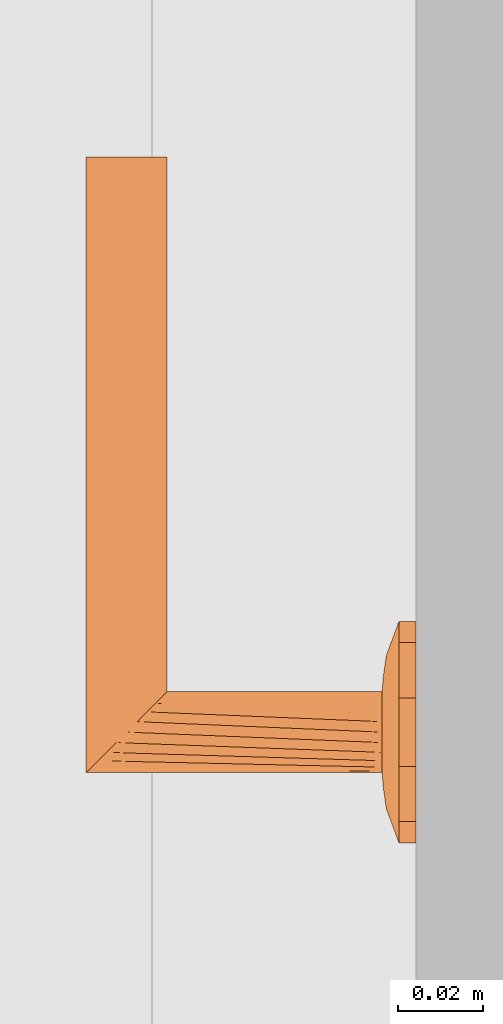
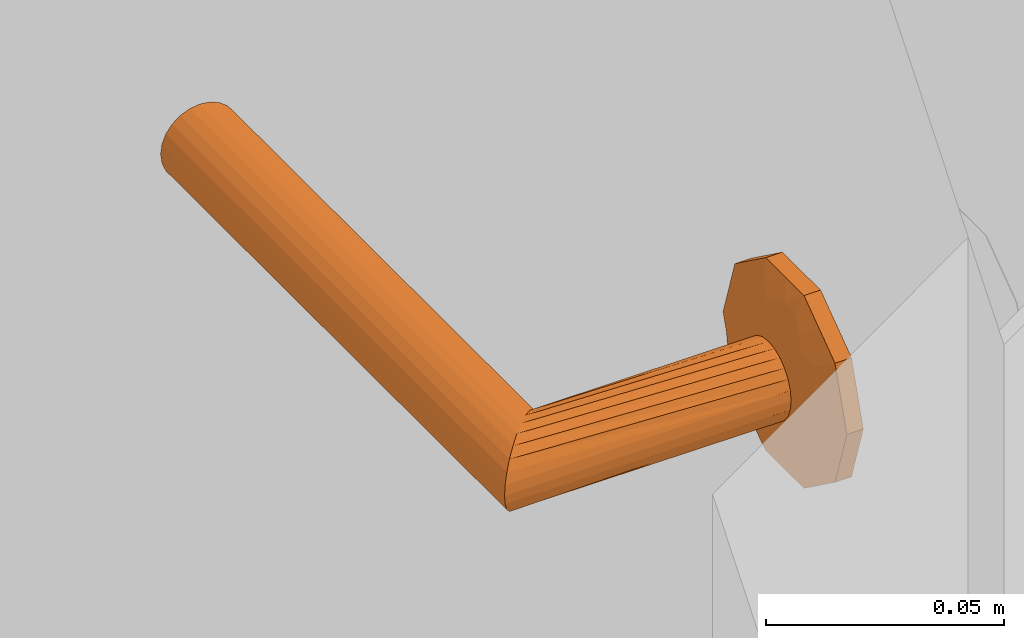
# One storey, part 116 of 125: 1 proxy.
"""IFC2X3 building model written with IfcOpenShell, lengths in millimetres."""

from ifc_helpers import new_model, entity, si_unit, converted_unit, direction, frame, origin, place, context, subcontext, project, spatial, faceted_brep, source, transform, mapped, material, type_object, type_shapes, element, save


model = new_model("IFC2X3")

# Units and contexts
model_context = context("Model", 3, precision=0.01, world=origin(), true_north=direction((6.123233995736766e-17, 1.0)))
plan_context = context("Plan", 3, precision=0.01, world=origin(), true_north=direction((6.123233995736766e-17, 1.0)))
body_context = subcontext(model_context, "Body", "Model", "MODEL_VIEW")
ifc_project = project(units=[si_unit("LENGTHUNIT", "METRE", prefix="MILLI"), converted_unit("PLANEANGLEUNIT", "DEGREE", entity("IfcPlaneAngleMeasure", 0.017453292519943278), si_unit("PLANEANGLEUNIT", "RADIAN"), dimensions=[0, 0, 0, 0, 0, 0, 0]), si_unit("AREAUNIT", "SQUARE_METRE")], contexts=[model_context, plan_context])

# Site, building, storey
site_placement = place(None, origin())
site = spatial("IfcSite", under=ifc_project, at=site_placement, Name="Default", CompositionType="ELEMENT")
building_placement = place(site_placement, origin())
building = spatial("IfcBuilding", under=site, at=building_placement, CompositionType="ELEMENT")
storey_placement = place(building_placement, frame((0.0, 0.0, 3125.0)))
storey = spatial("IfcBuildingStorey", under=building, at=storey_placement, Name="2K", CompositionType="ELEMENT", Elevation=3125.0)

# Proxy
ifc_material = material(Name="<Unnamed>")
building_element_proxy_type = type_object("IfcBuildingElementProxyType", Name="Door-handle_Lever_ABLOY_INOXI_3-19ss-002_RT:Default", PredefinedType="NOTDEFINED", material=ifc_material)
shared_shape = source(origin(), body_context, "Body", "Brep", [
    faceted_brep([(0.0, 0.0, 0.0), (21.034441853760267, -15.282416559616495, 0.0), (14.534441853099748, -20.00494299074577, 0.0), (8.034441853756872, -24.72746942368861, 0.0), (0.0, -24.72746942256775, 0.0), (23.51722092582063, -7.6412082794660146, 0.0), (26.0, 0.0, 0.0), (-8.034441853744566, -24.727469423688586, 0.0), (-14.534441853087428, -20.00494299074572, 0.0), (-21.03444185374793, -15.282416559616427, 0.0), (-23.517220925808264, -7.641208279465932, 0.0), (-26.0, 0.0, 0.0), (-23.517220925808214, 7.641208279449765, 0.0), (23.517220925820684, 7.641208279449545, 0.0), (21.034441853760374, 15.282416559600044, 0.0), (14.53444185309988, 20.00494299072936, 0.0), (8.034441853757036, 24.72746942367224, 0.0), (-21.034441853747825, 15.282416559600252, 0.0), (-14.53444185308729, 20.004942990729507, 0.0), (-8.0344418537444, 24.72746942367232, 0.0), (0.0, 24.72746942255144, 0.0), (0.0, 0.0, 8.0), (4.7500000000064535, -8.227241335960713, 8.0), (5.937500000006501, -6.170431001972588, 8.0), (7.125000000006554, -4.113620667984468, 8.0), (8.312500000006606, -2.0568103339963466, 8.0), (9.500000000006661, 0.0, 8.0), (8.312500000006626, 2.056810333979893, 8.0), (2.3750000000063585, -8.227241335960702, 8.0), (0.0, -8.227241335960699, 8.0), (-2.3749999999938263, -8.227241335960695, 8.0), (-4.749999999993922, -8.227241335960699, 8.0), (-5.937499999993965, -6.170431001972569, 8.0), (-7.124999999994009, -4.113620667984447, 8.0), (-8.312499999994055, -2.056810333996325, 8.0), (-9.499999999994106, 0.0, 8.0), (7.125000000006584, 4.113620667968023, 8.0), (5.937500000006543, 6.170431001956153, 8.0), (4.750000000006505, 8.227241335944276, 8.0), (2.3750000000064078, 8.22724133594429, 8.0), (-8.31249999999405, 2.0568103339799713, 8.0), (-7.12499999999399, 4.113620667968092, 8.0), (-5.9374999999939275, 6.170431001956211, 8.0), (-4.74999999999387, 8.227241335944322, 8.0), (0.0, 8.227241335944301, 8.0), (-2.374999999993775, 8.227241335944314, 8.0), (-22.488765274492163, -10.806469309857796, 4.030771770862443), (-16.663919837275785, -7.932665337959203, 6.877259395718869), (-20.643071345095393, -6.292822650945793, 5.929480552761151), (-12.50457926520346, -5.179566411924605, 7.774932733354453), (-16.764060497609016, -3.820257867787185, 7.1747985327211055), (-9.071726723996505, -10.311606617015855, 7.7520782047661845), (-11.963426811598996, -8.625290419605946, 7.618343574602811), (-11.979136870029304, -13.678312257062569, 6.945778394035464), (5.7585542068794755, -20.96753300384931, 5.871476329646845), (0.0, -24.72746942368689, 4.030771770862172), (8.03444185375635, -24.727469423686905, 4.030771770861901), (16.66391982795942, -7.932665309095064, 6.877259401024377), (22.488765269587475, -10.806469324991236, 4.03077177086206), (20.64307133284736, -6.29282258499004, 5.929480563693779), (14.534441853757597, -20.004942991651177, 4.030771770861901), (9.499431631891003, -18.64368355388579, 6.154325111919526), (-15.783149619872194, -11.991003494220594, 6.50080018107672), (-21.034441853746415, -15.282416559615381, 4.030771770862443), (-14.53444185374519, -20.00494299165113, 4.030771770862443), (-23.012042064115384, 0.0, 5.135401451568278), (-23.943088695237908, -6.330522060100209, 4.030771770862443), (11.96342678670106, -8.62529049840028, 7.618343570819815), (12.504579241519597, -5.179566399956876, 7.774932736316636), (16.764060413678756, -3.8202578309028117, 7.17479855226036), (15.783149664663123, -11.991003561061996, 6.50080015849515), (17.985351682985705, 0.0, 6.993737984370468), (23.012042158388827, 0.0, 5.135401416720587), (8.661516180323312, -10.478936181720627, 7.768126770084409), (-8.03444185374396, -24.727469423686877, 4.030771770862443), (-3.3573143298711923, -21.197247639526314, 5.971427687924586), (-9.941915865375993, -17.061976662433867, 6.522757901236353), (-5.973257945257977, -16.430139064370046, 7.110979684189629), (-7.711266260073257, -12.760344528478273, 7.594456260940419), (11.979136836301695, -13.678312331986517, 6.945778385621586), (7.511307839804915, -13.358932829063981, 7.529187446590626), (5.953298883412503, -16.50608604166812, 7.096344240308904), (-1.5654593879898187, -15.307443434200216, 7.519134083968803), (-7.784980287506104, -20.476295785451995, 5.812837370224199), (2.8135289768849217, -17.76392260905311, 6.993737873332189), (-17.98535168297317, 0.0, 6.993737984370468), (-26.0, 0.0, 4.030771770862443), (-23.51722092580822, -7.641208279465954, 4.030771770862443), (23.943088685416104, -6.33052209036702, 4.030771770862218), (24.308823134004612, -5.204907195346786, 4.030771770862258), (26.0, 0.0, 4.030771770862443), (21.03444185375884, -15.282416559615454, 4.030771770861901), (22.617646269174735, -10.40981439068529, 4.030771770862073), (22.488765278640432, 10.806469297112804, 4.030771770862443), (16.66391984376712, 7.932665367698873, 6.877259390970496), (20.643071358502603, 6.292822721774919, 5.929480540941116), (12.504579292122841, 5.179566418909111, 7.774932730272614), (16.764060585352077, 3.8202579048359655, 7.174798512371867), (9.07172672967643, 10.31160659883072, 7.752078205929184), (11.963426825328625, 8.62529034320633, 7.618343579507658), (11.979136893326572, 13.67831220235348, 6.9457784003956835), (-5.758554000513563, 20.96753314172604, 5.8714763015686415), (0.0, 24.72746942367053, 4.030771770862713), (-8.03444185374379, 24.72746942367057, 4.030771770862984), (-16.663919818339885, 7.932665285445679, 6.877259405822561), (-22.48876526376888, 10.806469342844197, 4.030771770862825), (-20.643071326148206, 6.2928225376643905, 5.929480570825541), (-14.534441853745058, 20.004942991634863, 4.030771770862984), (-9.499431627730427, 18.643683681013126, 6.154325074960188), (15.783149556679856, 11.991003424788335, 6.5008002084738), (21.03444185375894, 15.282416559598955, 4.030771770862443), (14.534441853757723, 20.004942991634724, 4.030771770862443), (23.943088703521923, 6.330522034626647, 4.030771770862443), (-11.96342675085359, 8.625290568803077, 7.618343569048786), (-12.504579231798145, 5.179566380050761, 7.77493273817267), (-16.764060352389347, 3.820257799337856, 7.174798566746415), (-15.78314967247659, 11.991003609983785, 6.500800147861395), (-8.661516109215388, 10.478936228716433, 7.768126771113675), (8.034441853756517, 24.727469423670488, 4.030771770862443), (3.3573144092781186, 21.197247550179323, 5.971427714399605), (9.941915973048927, 17.061976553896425, 6.522757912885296), (5.9732581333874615, 16.430139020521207, 7.110979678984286), (7.711266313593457, 12.760344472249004, 7.5944562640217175), (-11.979136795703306, 13.678312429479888, 6.945778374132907), (-7.511307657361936, 13.358932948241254, 7.5291874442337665), (-5.9532988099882, 16.50608628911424, 7.096344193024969), (1.5654596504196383, 15.3074431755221, 7.519134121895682), (7.784980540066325, 20.476295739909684, 5.812837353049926), (-2.81352881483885, 17.76392263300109, 6.993737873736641), (23.51722092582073, 7.6412082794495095, 4.030771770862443), (-23.94308867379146, 6.330522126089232, 4.030771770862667), (-24.308823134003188, 5.20490719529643, 4.030771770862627), (-21.034441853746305, 15.282416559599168, 4.030771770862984), (-22.617646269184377, 10.409814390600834, 4.0307717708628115)], [[[0, 1, 2]], [[0, 2, 3]], [[0, 3, 4]], [[0, 5, 1]], [[0, 6, 5]], [[0, 4, 7]], [[0, 7, 8]], [[0, 8, 9]], [[0, 9, 10]], [[0, 10, 11]], [[0, 11, 12]], [[0, 13, 6]], [[0, 14, 13]], [[0, 15, 14]], [[0, 16, 15]], [[0, 12, 17]], [[0, 17, 18]], [[0, 18, 19]], [[0, 19, 20]], [[0, 20, 16]], [[21, 22, 23]], [[21, 23, 24]], [[21, 24, 25]], [[21, 25, 26]], [[21, 26, 27]], [[21, 28, 22]], [[21, 29, 28]], [[21, 30, 29]], [[21, 31, 30]], [[21, 32, 31]], [[21, 33, 32]], [[21, 34, 33]], [[21, 35, 34]], [[21, 27, 36]], [[21, 36, 37]], [[21, 37, 38]], [[21, 38, 39]], [[21, 40, 35]], [[21, 41, 40]], [[21, 42, 41]], [[21, 43, 42]], [[21, 39, 44]], [[21, 44, 45]], [[21, 45, 43]], [[46, 47, 48]], [[47, 49, 50]], [[49, 33, 34]], [[51, 52, 53]], [[49, 52, 33]], [[48, 47, 50]], [[54, 55, 56]], [[57, 58, 59]], [[56, 60, 61]], [[62, 63, 64]], [[65, 66, 48]], [[67, 57, 68]], [[68, 69, 25]], [[57, 67, 70]], [[69, 26, 25]], [[62, 53, 52]], [[71, 69, 72]], [[67, 23, 73]], [[74, 55, 75]], [[76, 77, 78]], [[79, 60, 70]], [[69, 59, 72]], [[80, 81, 61]], [[77, 30, 78]], [[82, 30, 77]], [[28, 80, 22]], [[77, 83, 75]], [[75, 82, 77]], [[55, 84, 75]], [[85, 50, 35]], [[24, 68, 25]], [[82, 84, 29]], [[84, 82, 75]], [[31, 78, 30]], [[82, 29, 30]], [[34, 35, 50]], [[52, 49, 47]], [[62, 52, 47]], [[34, 50, 49]], [[53, 78, 51]], [[32, 33, 52]], [[85, 65, 50]], [[66, 65, 86]], [[67, 68, 24]], [[77, 76, 83]], [[65, 48, 50]], [[63, 62, 46]], [[48, 66, 87, 46]], [[62, 47, 46]], [[69, 68, 57]], [[80, 73, 22]], [[70, 67, 79]], [[67, 24, 23]], [[72, 88, 89, 90]], [[69, 71, 26]], [[59, 69, 57]], [[61, 60, 79]], [[62, 64, 53]], [[91, 58, 70]], [[72, 59, 88]], [[57, 70, 58]], [[59, 58, 92]], [[80, 61, 79]], [[91, 70, 60]], [[61, 81, 54]], [[73, 80, 79]], [[28, 84, 81]], [[67, 73, 79]], [[29, 84, 28]], [[22, 73, 23]], [[51, 31, 32]], [[76, 78, 53]], [[53, 64, 76]], [[83, 64, 74]], [[64, 83, 76]], [[75, 83, 74]], [[31, 51, 78]], [[52, 51, 32]], [[28, 81, 80]], [[54, 81, 84]], [[55, 54, 84]], [[61, 54, 56]], [[93, 94, 95]], [[94, 96, 97]], [[96, 36, 27]], [[98, 99, 100]], [[96, 99, 36]], [[95, 94, 97]], [[101, 102, 103]], [[104, 105, 106]], [[103, 107, 108]], [[109, 110, 111]], [[72, 112, 95]], [[113, 104, 114]], [[114, 115, 40]], [[104, 113, 116]], [[115, 35, 40]], [[109, 100, 99]], [[85, 115, 65]], [[113, 42, 117]], [[118, 102, 119]], [[120, 121, 122]], [[123, 107, 116]], [[115, 106, 65]], [[124, 125, 108]], [[121, 39, 122]], [[126, 39, 121]], [[45, 124, 43]], [[121, 127, 119]], [[119, 126, 121]], [[102, 128, 119]], [[71, 97, 26]], [[41, 114, 40]], [[126, 128, 44]], [[128, 126, 119]], [[38, 122, 39]], [[126, 44, 39]], [[27, 26, 97]], [[99, 96, 94]], [[109, 99, 94]], [[27, 97, 96]], [[100, 122, 98]], [[37, 36, 99]], [[71, 72, 97]], [[112, 72, 90]], [[113, 114, 41]], [[121, 120, 127]], [[72, 95, 97]], [[110, 109, 93]], [[95, 112, 129, 93]], [[109, 94, 93]], [[115, 114, 104]], [[124, 117, 43]], [[116, 113, 123]], [[113, 41, 42]], [[65, 130, 131, 86]], [[115, 85, 35]], [[106, 115, 104]], [[108, 107, 123]], [[109, 111, 100]], [[132, 105, 116]], [[65, 106, 130]], [[104, 116, 105]], [[106, 105, 133]], [[124, 108, 123]], [[132, 116, 107]], [[108, 125, 101]], [[117, 124, 123]], [[45, 128, 125]], [[113, 117, 123]], [[44, 128, 45]], [[43, 117, 42]], [[98, 38, 37]], [[120, 122, 100]], [[100, 111, 120]], [[127, 111, 118]], [[111, 127, 120]], [[119, 127, 118]], [[38, 98, 122]], [[99, 98, 37]], [[45, 125, 124]], [[101, 125, 128]], [[102, 101, 128]], [[108, 101, 103]], [[7, 74, 64, 63, 9, 8]], [[10, 9, 63, 46, 87, 66, 86, 11]], [[6, 90, 89, 88, 92, 1, 5]], [[1, 58, 91]], [[74, 7, 4, 3, 56, 55]], [[60, 56, 3, 2, 1, 91]], [[1, 92, 58]], [[14, 110, 93, 129, 112, 90, 6, 13]], [[111, 110, 14, 15, 16, 118]], [[11, 86, 131, 130, 133, 17, 12]], [[17, 105, 132]], [[118, 16, 20, 19, 103, 102]], [[107, 103, 19, 18, 17, 132]], [[17, 133, 105]], [[59, 92, 88]], [[106, 133, 130]]]),
    faceted_brep([(4.7499999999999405, -8.22724133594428, 8.0), (2.4587809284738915, -9.176295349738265, 8.0), (0.0, -9.499999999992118, 8.0), (-2.4587809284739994, -9.176295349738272, 8.0), (-4.7500000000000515, -8.227241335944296, 8.0), (-6.717514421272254, -6.717514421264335, 8.0), (-8.227241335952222, -4.74999999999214, 8.0), (-9.176295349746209, -2.4587809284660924, 8.0), (-9.500000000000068, 0.0, 8.0), (-9.176295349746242, 2.458780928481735, 8.0), (-8.227241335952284, 4.750000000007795, 8.0), (-6.717514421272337, 6.717514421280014, 8.0), (-4.750000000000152, 8.227241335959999, 8.0), (-2.4587809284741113, 9.176295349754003, 8.0), (0.0, 9.500000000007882, 8.0), (2.4587809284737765, 9.176295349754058, 8.0), (4.7499999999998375, 8.227241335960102, 8.0), (6.717514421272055, 6.717514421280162, 8.0), (8.22724133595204, 4.75000000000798, 8.0), (9.17629534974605, 2.458780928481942, 8.0), (9.499999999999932, 0.0, 8.0), (9.17629534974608, -2.458780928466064, 8.0), (8.227241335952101, -4.749999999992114, 8.0), (6.717514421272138, -6.7175144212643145, 8.0), (-8.227241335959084, 4.7499999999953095, 59.772758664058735), (-6.717514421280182, 6.7175144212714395, 61.282485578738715), (-9.176295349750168, 2.458780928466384, 58.82370465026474), (-4.750000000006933, 8.227241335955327, 63.25000000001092), (-2.4587809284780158, 9.176295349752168, 65.54121907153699), (-9.500000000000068, 0.0, 58.50000000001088), (0.0, 9.50000000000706, 68.0), (4.750000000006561, 8.227241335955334, 72.75000000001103), (2.4587809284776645, 9.17629534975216, 70.45878092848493), (6.717514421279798, 6.7175144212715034, 74.71751442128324), (8.22724133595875, 4.749999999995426, 76.22724133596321), (9.17629534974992, 2.458780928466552, 77.17629534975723), (9.499999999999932, 0.0, 77.50000000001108), (9.176295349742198, -2.4587809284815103, 77.1762953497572), (8.227241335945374, -4.750000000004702, 76.22724133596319), (6.7175144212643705, -6.717514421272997, 74.7175144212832), (4.749999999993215, -8.227241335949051, 72.75000000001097), (2.4587809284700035, -9.17629534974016, 70.45878092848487), (0.0, -9.49999999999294, 68.0), (-2.4587809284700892, -9.176295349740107, 65.54121907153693), (-4.749999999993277, -8.227241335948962, 63.250000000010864), (-6.717514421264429, -6.717514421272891, 61.282485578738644), (-9.176295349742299, -2.458780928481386, 58.8237046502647), (-8.227241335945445, -4.750000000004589, 59.77275866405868), (-135.0, -9.176295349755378, 70.4587809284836), (-135.0, -8.227241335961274, 72.75000000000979), (-135.0, -6.717514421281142, 74.71751442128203), (-135.0, -4.750000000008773, 76.22724133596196), (-135.0, -2.4587809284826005, 77.17629534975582), (-135.0, 0.0, 77.5000000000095), (-135.0, 2.4587809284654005, 77.17629534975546), (-135.0, 4.749999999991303, 76.22724133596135), (-135.0, 6.717514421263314, 74.71751442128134), (-135.0, 8.227241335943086, 72.75000000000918), (-135.0, 9.17629534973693, 70.45878092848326), (-135.0, 9.499999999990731, 68.0), (-135.0, 9.17629534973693, 65.54121907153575), (-135.0, 8.227241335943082, 63.250000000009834), (-135.0, 6.717514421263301, 61.28248557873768), (-135.0, 4.749999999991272, 59.772758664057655), (-135.0, 2.458780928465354, 58.823704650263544), (-135.0, 0.0, 58.50000000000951), (-135.0, -2.458780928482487, 58.82370465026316), (-135.0, -4.750000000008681, 59.772758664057), (-135.0, -6.7175144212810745, 61.28248557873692), (-135.0, -8.227241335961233, 63.25000000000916), (-135.0, -9.176295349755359, 65.54121907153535), (-135.0, -9.500000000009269, 68.0)], [[[0, 1, 2, 3, 4, 5, 6, 7, 8, 9, 10, 11, 12, 13, 14, 15, 16, 17, 18, 19, 20, 21, 22, 23]], [[24, 25, 11, 10]], [[26, 24, 10, 9]], [[14, 27, 28]], [[13, 27, 14]], [[25, 27, 13]], [[29, 26, 9, 8]], [[12, 11, 25]], [[25, 13, 12]], [[28, 30, 15]], [[31, 17, 32]], [[33, 18, 31]], [[19, 34, 35]], [[33, 34, 19]], [[20, 19, 35, 36]], [[16, 15, 30]], [[14, 28, 15]], [[19, 18, 33]], [[17, 31, 18]], [[17, 16, 32]], [[30, 32, 16]], [[20, 36, 37, 21]], [[38, 21, 37]], [[22, 39, 40]], [[38, 39, 21]], [[23, 40, 41]], [[39, 22, 21]], [[1, 42, 43]], [[42, 1, 0]], [[23, 41, 0]], [[23, 22, 40]], [[41, 42, 0]], [[44, 45, 3]], [[43, 44, 2]], [[46, 29, 8, 7]], [[47, 46, 7, 6]], [[45, 47, 6, 5]], [[45, 4, 3]], [[3, 2, 44]], [[5, 4, 45]], [[43, 2, 1]], [[48, 49, 50, 51, 52, 53, 54, 55, 56, 57, 58, 59, 60, 61, 62, 63, 64, 65, 66, 67, 68, 69, 70, 71]], [[64, 63, 24, 26]], [[65, 64, 26, 29]], [[61, 60, 28, 27]], [[62, 61, 27, 25]], [[63, 62, 25, 24]], [[59, 30, 28, 60]], [[57, 56, 33, 31]], [[58, 57, 31, 32]], [[54, 53, 36, 35]], [[55, 54, 35, 34]], [[56, 55, 34, 33]], [[32, 30, 59, 58]], [[52, 51, 38, 37]], [[53, 52, 37, 36]], [[49, 48, 41, 40]], [[50, 49, 40, 39]], [[51, 50, 39, 38]], [[42, 41, 48, 71]], [[69, 68, 45, 44]], [[70, 69, 44, 43]], [[66, 65, 29, 46]], [[67, 66, 46, 47]], [[68, 67, 47, 45]], [[42, 71, 70, 43]]]),
])
type_shapes(building_element_proxy_type, [shared_shape])
proxy_placement = place(storey_placement, frame((12119.993534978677, 4419.997631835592, 1000.0), z_axis=(-1.0, 0.0, 0.0), x_axis=(0.0, -1.0, 0.0)))
element("IfcBuildingElementProxy", 1, at=proxy_placement, inside=storey, type_object=building_element_proxy_type, material=ifc_material, Name="Door-handle_Lever_ABLOY_INOXI_3-19ss-002_RT:Default", ObjectType="Door-handle_Lever_ABLOY_INOXI_3-19ss-002_RT:Default", context=body_context, shape_type="MappedRepresentation", body=[
    mapped(shared_shape, transform((0.0, 0.0, 0.0), scale=1.0)),
])

save(model, "model.ifc")
